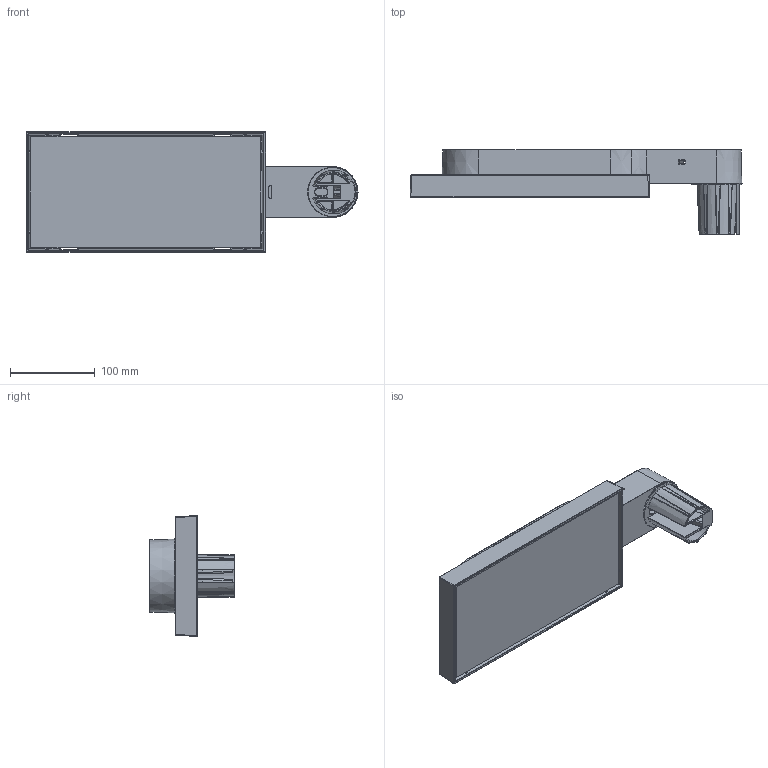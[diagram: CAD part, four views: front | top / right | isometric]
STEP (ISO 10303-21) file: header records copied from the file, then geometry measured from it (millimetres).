
FILE_DESCRIPTION((''),'2;1');
FILE_NAME('ASSIEME_KAI_1_SW0001','2025-07-30T08:25:09',('Piccioli'),(''),'CREO PARAMETRIC BY PTC INC, 2025010','CREO PARAMETRIC BY PTC INC, 2025010','');
FILE_SCHEMA(('CONFIG_CONTROL_DESIGN'));
Length unit declared in the file: millimetre
Products named in the file (1): ASSIEME_KAI_1_SW0001
Bounding box: 391.08 x 100 x 142.18 mm (x, y, z)
Surface area: 281946 mm2 (no closed solid volume)
Topology: 0 solids, 66 shells, 453 faces, 2279 edges, 1827 vertices
Faces by surface type: plane 167, cylinder 120, bspline 59, torus 55, cone 52
Entity records: 33975 total; most frequent: CARTESIAN_POINT 18015, DIRECTION 2939, ORIENTED_EDGE 2789, EDGE_CURVE 2279, VERTEX_POINT 1827, AXIS2_PLACEMENT_3D 988, VECTOR 963, LINE 963
